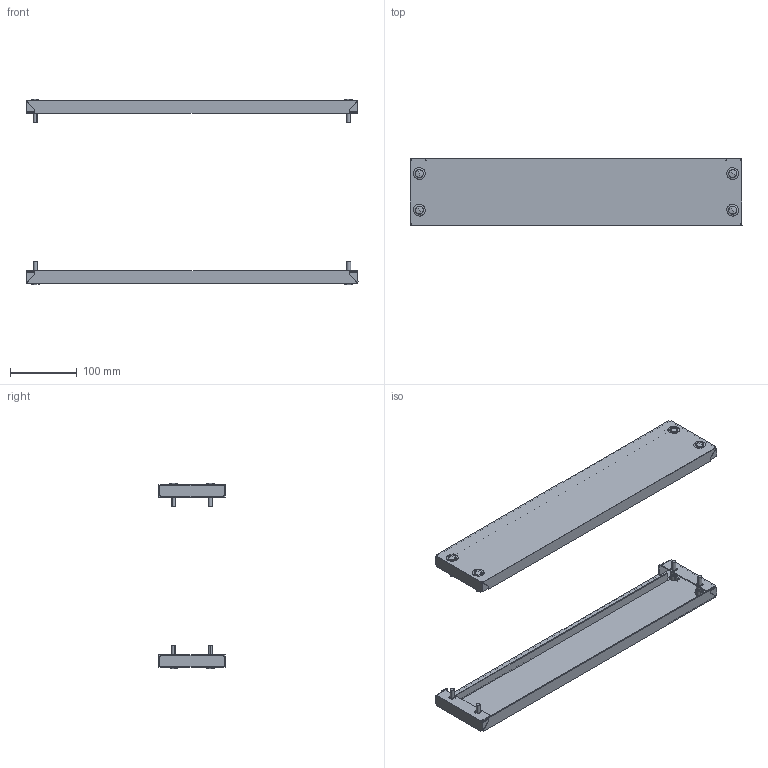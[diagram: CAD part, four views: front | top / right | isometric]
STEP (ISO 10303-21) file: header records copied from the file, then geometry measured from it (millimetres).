
FILE_DESCRIPTION (( 'STEP AP203' ), '1' );
FILE_NAME ('R5FZ5-300.STEP', '2025-06-18T08:33:07', ( '' ), ( '' ), 'SwSTEP 2.0', 'SolidWorks 2022', '' );
FILE_SCHEMA (( 'CONFIG_CONTROL_DESIGN' ));
Length unit declared in the file: millimetre
Products named in the file (5): R5FZ5-300; Plug_11.5-13Д18ЧК_-00; RB.1055.00.00.0 simple_-01 (500); 6 DIN 6798 A Zinc; M6x16 DIN 912 HX cl.4,8 Zinc_stright
Assembly tree (26 placements, depth 2):
  R5FZ5-300
    RB.1055.00.00.0 simple_-01 (500)  x2
    M6x16 DIN 912 HX cl.4,8 Zinc_stright  x8
    6 DIN 6798 A Zinc  x8
    Plug_11.5-13Д18ЧК_-00  x8
Bounding box: 499 x 100.05 x 278.5 mm (x, y, z)
Volume: 250300.8 mm3; surface area: 339943.7 mm2
Topology: 26 solids, 26 shells, 1196 faces, 3456 edges, 2112 vertices
Faces by surface type: plane 700, bspline 208, cylinder 128, cone 96, torus 48, sphere 16
Entity records: 9921 total; most frequent: CARTESIAN_POINT 2626, ORIENTED_EDGE 1352, DIRECTION 1188, EDGE_CURVE 676, LINE 448, VECTOR 448, VERTEX_POINT 444, AXIS2_PLACEMENT_3D 370
